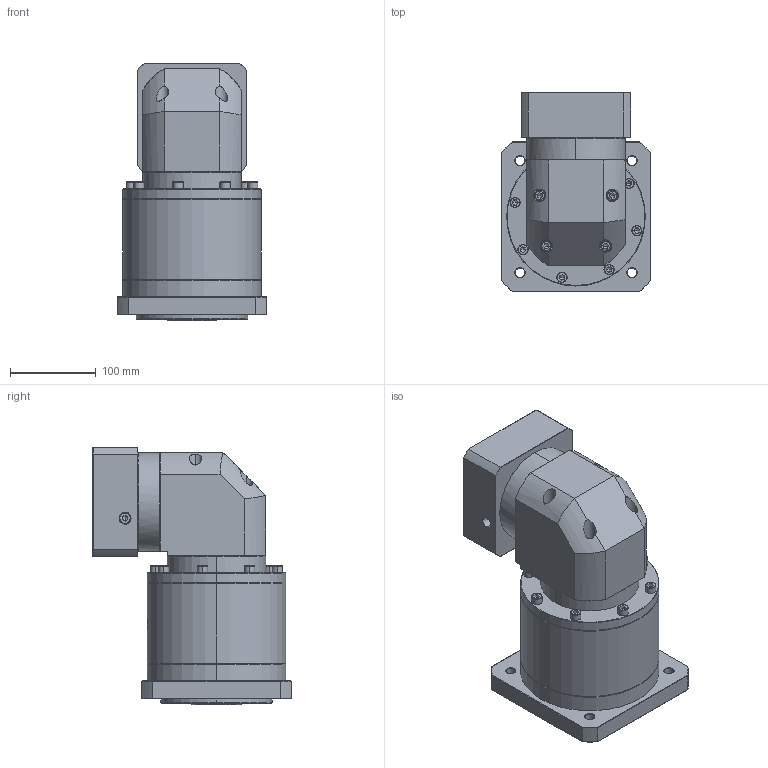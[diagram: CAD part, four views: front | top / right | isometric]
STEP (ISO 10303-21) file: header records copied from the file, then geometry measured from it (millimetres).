
FILE_DESCRIPTION (( 'STEP AP214' ), '1' );
FILE_NAME ('ZFR160A-K35-L3-P2-28-110-145-M8.step', '2023-09-03T09:46:36', ( '' ), ( '' ), 'SwSTEP 2.0', 'SolidWorks 2016', '' );
FILE_SCHEMA (( 'AUTOMOTIVE_DESIGN' ));
Length unit declared in the file: millimetre
Products named in the file (1): ZFR160A-K35-L3-P2-28-110-145-M8
Bounding box: 175 x 232.4 x 301.2 mm (x, y, z)
Volume: 5674066.2 mm3; surface area: 368005.5 mm2
Topology: 6 solids, 6 shells, 2415 faces, 6318 edges, 4026 vertices
Faces by surface type: plane 1140, cylinder 462, bspline 404, cone 365, torus 44
Entity records: 126424 total; most frequent: CARTESIAN_POINT 45626, ORIENTED_EDGE 12532, DIRECTION 9543, EDGE_CURVE 6266, VERTEX_POINT 4026, VECTOR 3387, LINE 3387, AXIS2_PLACEMENT_3D 3078
